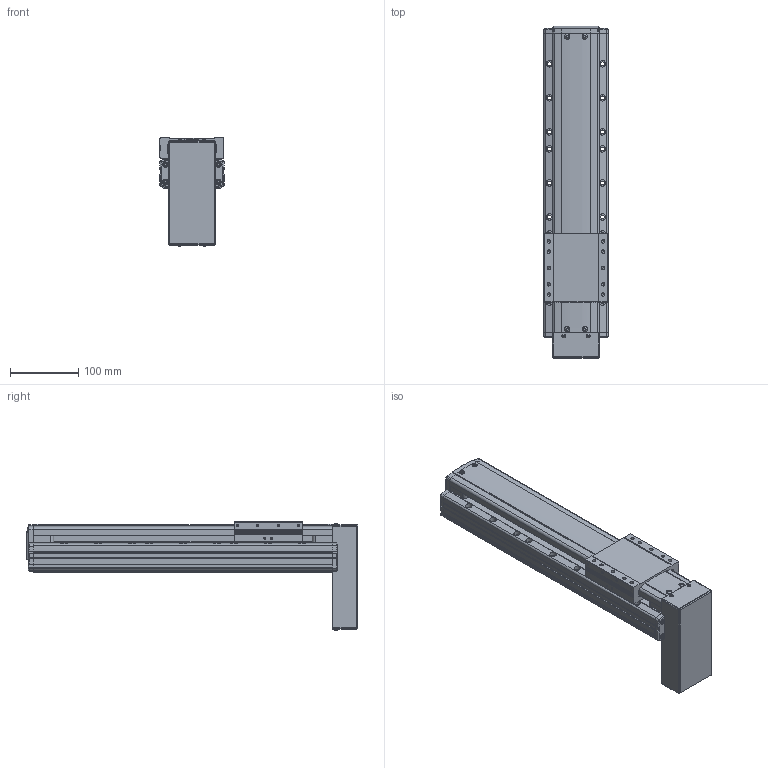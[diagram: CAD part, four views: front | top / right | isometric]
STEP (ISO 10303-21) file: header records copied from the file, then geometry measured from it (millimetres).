
FILE_DESCRIPTION(('STEP AP214'),'1');
FILE_NAME('Z:/Web/3D/PSA95/STP/PSA95-250 (3D)/PSA95ㅁㅁ-250PB.stp','2014-07-03T00:06:21',(' '),(' '),'Spatial InterOp 3D',' ',' ');
FILE_SCHEMA(('automotive_design'));
Length unit declared in the file: millimetre
Products named in the file (29): BASE; RRCV; 스크루 : Round - M4.0 x 10.0; 너트 : Square - M10.0 x 220.7419; RR1500; FRCV-090; 스크루 : Round - M4.0 x 6.0; SLBL-PA90; MTPL COVER; 스크루 : Round - M3.0 x 6.0; 1; 2
Bounding box: 95.1 x 487.5 x 159.57 mm (x, y, z)
Volume: 2859924.3 mm3; surface area: 327905 mm2
Topology: 29 solids, 29 shells, 2021 faces, 5385 edges, 3431 vertices
Faces by surface type: plane 1130, cylinder 597, cone 206, sphere 50, bspline 24, torus 14
Entity records: 81156 total; most frequent: CARTESIAN_POINT 13825, DIRECTION 10676, ORIENTED_EDGE 10514, EDGE_CURVE 5257, LINE 3564, VECTOR 3564, AXIS2_PLACEMENT_3D 3556, VERTEX_POINT 3431
